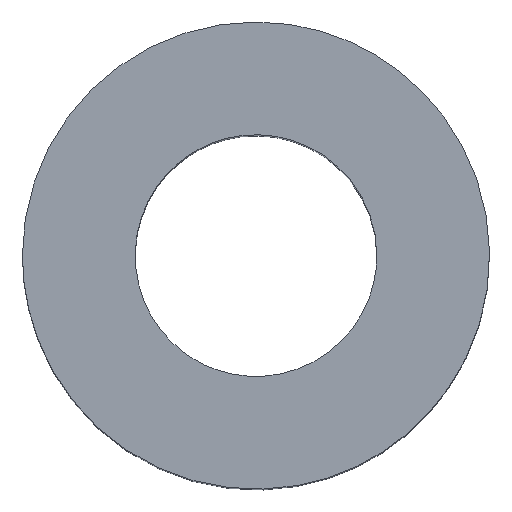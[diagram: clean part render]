
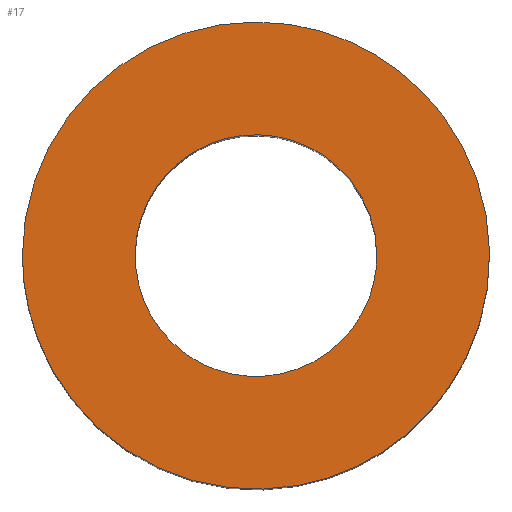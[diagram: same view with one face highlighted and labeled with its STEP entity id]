
A CAD part, top view. The second image highlights one B-rep face of the part: STEP entity #17.
In plain terms, the highlighted free-form (B-spline) face has degree [1, 1] with [2, 2] control points.
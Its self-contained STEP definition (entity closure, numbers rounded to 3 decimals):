
#17 = ADVANCED_FACE('',(#18,#32),#46,.F.);
#18 = FACE_BOUND('',#19,.T.);
#19 = EDGE_LOOP('',(#20));
#20 = ORIENTED_EDGE('',*,*,#21,.F.);
#21 = EDGE_CURVE('',#22,#22,#24,.T.);
#22 = VERTEX_POINT('',#23);
#23 = CARTESIAN_POINT('',(1.125,0.,5.));
#24 = ( BOUNDED_CURVE() B_SPLINE_CURVE(2,(#25,#26,#27,#28,#29,#30,#31),
.UNSPECIFIED.,.T.,.F.) B_SPLINE_CURVE_WITH_KNOTS((1,2,2,2,2,1),(
    -2.094,0.,2.094,4.189,6.283,
8.378),.UNSPECIFIED.) CURVE() GEOMETRIC_REPRESENTATION_ITEM() 
RATIONAL_B_SPLINE_CURVE((1.,0.5,1.,0.5,1.,0.5,1.)) REPRESENTATION_ITEM(
  '') );
#25 = CARTESIAN_POINT('',(1.125,0.,5.));
#26 = CARTESIAN_POINT('',(1.125,1.949,5.));
#27 = CARTESIAN_POINT('',(-0.563,0.974,5.));
#28 = CARTESIAN_POINT('',(-2.25,0.,5.));
#29 = CARTESIAN_POINT('',(-0.563,-0.974,5.));
#30 = CARTESIAN_POINT('',(1.125,-1.949,5.));
#31 = CARTESIAN_POINT('',(1.125,0.,5.));
#32 = FACE_BOUND('',#33,.T.);
#33 = EDGE_LOOP('',(#34));
#34 = ORIENTED_EDGE('',*,*,#35,.F.);
#35 = EDGE_CURVE('',#36,#36,#38,.T.);
#36 = VERTEX_POINT('',#37);
#37 = CARTESIAN_POINT('',(-2.175,0.,5.));
#38 = ( BOUNDED_CURVE() B_SPLINE_CURVE(2,(#39,#40,#41,#42,#43,#44,#45),
.UNSPECIFIED.,.T.,.F.) B_SPLINE_CURVE_WITH_KNOTS((1,2,2,2,2,1),(
    -2.094,0.,2.094,4.189,6.283,
8.378),.UNSPECIFIED.) CURVE() GEOMETRIC_REPRESENTATION_ITEM() 
RATIONAL_B_SPLINE_CURVE((1.,0.5,1.,0.5,1.,0.5,1.)) REPRESENTATION_ITEM(
  '') );
#39 = CARTESIAN_POINT('',(-2.175,0.,5.));
#40 = CARTESIAN_POINT('',(-2.175,3.767,5.));
#41 = CARTESIAN_POINT('',(1.088,1.884,5.));
#42 = CARTESIAN_POINT('',(4.35,0.,5.));
#43 = CARTESIAN_POINT('',(1.088,-1.884,5.));
#44 = CARTESIAN_POINT('',(-2.175,-3.767,5.));
#45 = CARTESIAN_POINT('',(-2.175,0.,5.));
#46 = B_SPLINE_SURFACE_WITH_KNOTS('',1,1,(
    (#47,#48)
    ,(#49,#50
    )),.UNSPECIFIED.,.F.,.F.,.F.,(2,2),(2,2),(-2.175,2.175),(-2.175,
    2.175),.PIECEWISE_BEZIER_KNOTS.);
#47 = CARTESIAN_POINT('',(2.175,-2.175,5.));
#48 = CARTESIAN_POINT('',(2.175,2.175,5.));
#49 = CARTESIAN_POINT('',(-2.175,-2.175,5.));
#50 = CARTESIAN_POINT('',(-2.175,2.175,5.));
